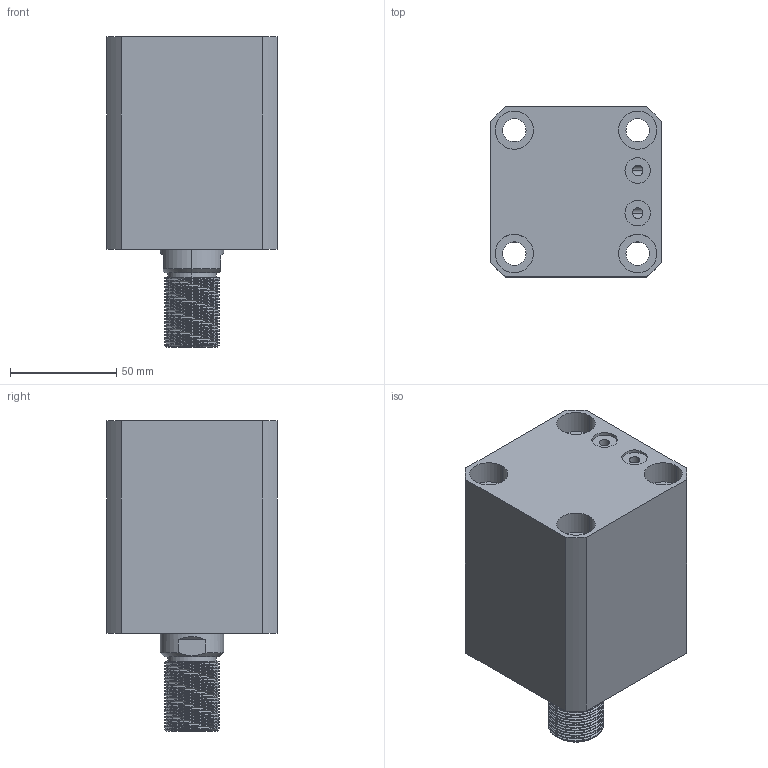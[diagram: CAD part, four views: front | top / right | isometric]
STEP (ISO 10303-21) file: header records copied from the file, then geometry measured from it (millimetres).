
FILE_DESCRIPTION (( 'STEP AP203' ), '1' );
FILE_NAME ('CHTB-SDMB50-40W.STEP', '2018-05-19T05:39:32', ( '' ), ( '' ), 'SwSTEP 2.0', 'SolidWorks 2015', '' );
FILE_SCHEMA (( 'CONFIG_CONTROL_DESIGN' ));
Length unit declared in the file: millimetre
Products named in the file (5): M6; CHTB-SDMB50-40W; 活塞杆SDMB50-40W; 掛极SDMB50-40W; CHTM-SDMA50QG
Assembly tree (5 placements, depth 2):
  CHTB-SDMB50-40W
    掛极SDMB50-40W
    活塞杆SDMB50-40W
    M6  x2
    CHTM-SDMA50QG
Bounding box: 80 x 80 x 146 mm (x, y, z)
Volume: 553558.2 mm3; surface area: 109709.3 mm2
Topology: 5 solids, 5 shells, 305 faces, 821 edges, 547 vertices
Faces by surface type: cylinder 175, plane 57, cone 29, bspline 28, torus 16
Entity records: 17763 total; most frequent: CARTESIAN_POINT 11022, ORIENTED_EDGE 1448, DIRECTION 1131, EDGE_CURVE 724, VERTEX_POINT 486, AXIS2_PLACEMENT_3D 455, EDGE_LOOP 312, ADVANCED_FACE 270
